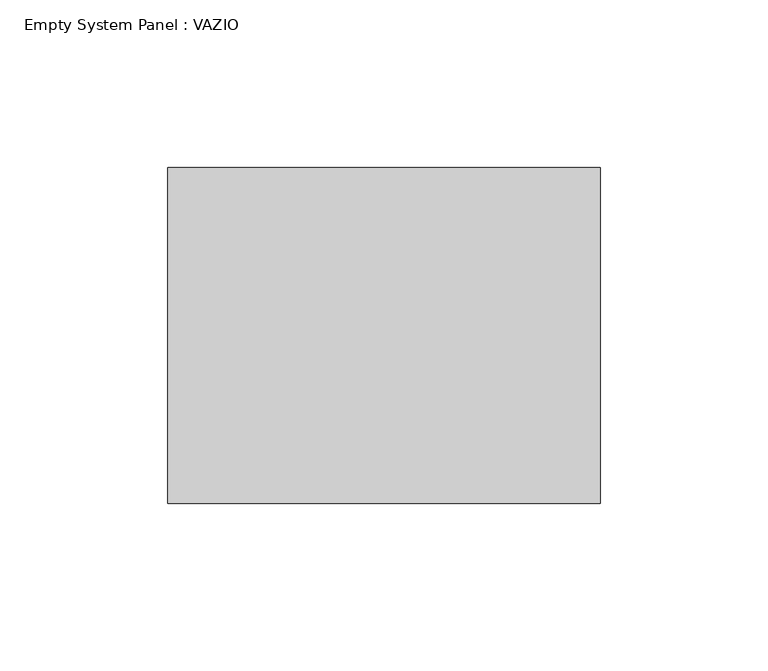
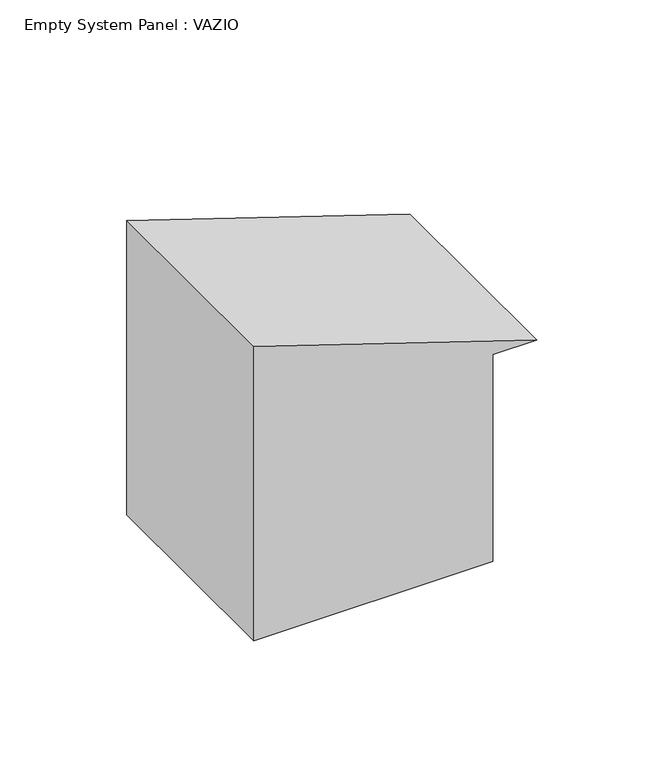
"""IFC4 building model written with IfcOpenShell, lengths in millimetres: plate geometry, Empty System Panel : VAZIO."""

import ifcopenshell
import ifcopenshell.guid

model = None  # the IFC model being written
_history = None  # IfcOwnerHistory: only IFC2X3 demands one
_inside = {}  # id of a spatial element -> (the spatial element, [elements in it])
_under = {}  # id of a project, library or spatial element -> (it, [spatial elements below it])
_declared = {}  # id of a project -> (the project, [libraries it declares])
_typed = {}  # id of a type object -> (the type object, [elements of that type])
_made_of = {}  # id of a material, layer set ... -> (it, [elements and type objects made of it])


def new_model(schema):
    """Start an empty IFC model of exactly this schema.

    Asked for "IFC4X3", IfcOpenShell would pick the latest addendum, in which some entities
    have other attributes; the version numbers below select the first issue.
    IFC2X3 requires an IfcOwnerHistory on every rooted entity: one is made here for all.
    """
    global model, _history
    if schema == "IFC4X3":
        model = ifcopenshell.file(schema_version=(4, 3, 0, 0))
    else:
        model = ifcopenshell.file(schema=schema)
    _inside.clear()
    _under.clear()
    _declared.clear()
    _typed.clear()
    _made_of.clear()
    _history = None
    if model.schema == "IFC2X3":
        org = make("IfcOrganization", Name="unknown")
        user = make(
            "IfcPersonAndOrganization",
            ThePerson=make("IfcPerson", FamilyName="unknown"),
            TheOrganization=org,
        )
        app = make(
            "IfcApplication",
            ApplicationDeveloper=org,
            Version="unknown",
            ApplicationFullName="unknown",
            ApplicationIdentifier="unknown",
        )
        _history = make(
            "IfcOwnerHistory",
            OwningUser=user,
            OwningApplication=app,
            ChangeAction="ADDED",
            CreationDate=0,
        )
    return model


def make(cls, **values):
    """One entity of the class cls with the attributes given. An attribute that is None is left unset."""
    return model.create_entity(
        cls, **{name: value for name, value in values.items() if value is not None}
    )


def rooted(cls, **values):
    """An entity with a GlobalId (a new one), such as an element, a storey or a relation."""
    return make(cls, GlobalId=ifcopenshell.guid.new(), OwnerHistory=_history, **values)


def si_unit(unit_type, name, prefix=None):
    """IfcSIUnit, for example si_unit("LENGTHUNIT", "METRE", prefix="MILLI")."""
    return make("IfcSIUnit", UnitType=unit_type, Prefix=prefix, Name=name)


def assignment(units):
    """IfcUnitAssignment: the units of a project."""
    return None if units is None else make("IfcUnitAssignment", Units=units)


def point(xyz):
    """IfcCartesianPoint."""
    return None if xyz is None else make("IfcCartesianPoint", Coordinates=xyz)


def direction(xyz):
    """IfcDirection."""
    return None if xyz is None else make("IfcDirection", DirectionRatios=xyz)


def frame(location, z_axis=None, x_axis=None):
    """IfcAxis2Placement3D, a coordinate frame: its origin and axes. An axis left out is left unset."""
    return make(
        "IfcAxis2Placement3D",
        Location=point(location),
        Axis=direction(z_axis),
        RefDirection=direction(x_axis),
    )


def frame_2d(location, x_axis=None):
    """IfcAxis2Placement2D, a coordinate frame in the plane: its origin and x axis."""
    return make(
        "IfcAxis2Placement2D", Location=point(location), RefDirection=direction(x_axis)
    )


def origin():
    """The frame at (0, 0, 0) with its axes left unset."""
    return frame((0.0, 0.0, 0.0))


def place(relative_to, where):
    """IfcLocalPlacement: puts the frame where relative to a parent placement (None: the world)."""
    return make(
        "IfcLocalPlacement", PlacementRelTo=relative_to, RelativePlacement=where
    )


def context(
    kind, dimensions, precision=None, world=None, true_north=None, identifier=None
):
    """IfcGeometricRepresentationContext, for example the 3D "Model" context."""
    return make(
        "IfcGeometricRepresentationContext",
        ContextIdentifier=identifier,
        ContextType=kind,
        CoordinateSpaceDimension=dimensions,
        Precision=precision,
        WorldCoordinateSystem=world,
        TrueNorth=true_north,
    )


def project(units=None, contexts=None):
    """IfcProject with its units and contexts."""
    return rooted(
        "IfcProject",
        Name="project",
        RepresentationContexts=contexts,
        UnitsInContext=assignment(units),
    )


def spatial(cls, under=None, at=None, **own):
    """A site, building, storey or space (cls), placed at a placement, below another one or the project."""
    s = rooted(cls, ObjectPlacement=at, **own)
    if under is not None:
        _under.setdefault(under.id(), (under, []))[1].append(s)
    return s


def polyline(points):
    """IfcPolyline through the points."""
    return make("IfcPolyline", Points=[point(p) for p in points])


def circle_curve(where, radius):
    """IfcCircle in the frame where."""
    return make("IfcCircle", Position=where, Radius=radius)


def trimmed(basis, trim1, trim2, sense, master):
    """IfcTrimmedCurve: the piece of a basis curve between two trims."""
    return make(
        "IfcTrimmedCurve",
        BasisCurve=basis,
        Trim1=trim1,
        Trim2=trim2,
        SenseAgreement=sense,
        MasterRepresentation=master,
    )


def segment(curve, same_sense, transition):
    """IfcCompositeCurveSegment."""
    return make(
        "IfcCompositeCurveSegment",
        Transition=transition,
        SameSense=same_sense,
        ParentCurve=curve,
    )


def composite_curve(segments, self_intersect=None):
    """IfcCompositeCurve: segments joined end to end."""
    return make("IfcCompositeCurve", Segments=segments, SelfIntersect=self_intersect)


def outline(outer, holes=None, kind="AREA"):
    """IfcArbitraryClosedProfileDef: a profile drawn as a closed curve; with holes, ...WithVoids."""
    if holes is None:
        return make("IfcArbitraryClosedProfileDef", ProfileType=kind, OuterCurve=outer)
    return make(
        "IfcArbitraryProfileDefWithVoids",
        ProfileType=kind,
        OuterCurve=outer,
        InnerCurves=holes,
    )


def extrude(swept, where, along, depth):
    """IfcExtrudedAreaSolid: the profile swept, set in the frame where, extruded along a direction by depth."""
    return make(
        "IfcExtrudedAreaSolid",
        SweptArea=swept,
        Position=where,
        ExtrudedDirection=direction(along),
        Depth=depth,
    )


def shape(context_of_items, identifier, shape_type, items):
    """IfcShapeRepresentation: the items that make up one representation, for example the "Body"."""
    return make(
        "IfcShapeRepresentation",
        ContextOfItems=context_of_items,
        RepresentationIdentifier=identifier,
        RepresentationType=shape_type,
        Items=items,
    )


def source(mapping_origin, context_of_items, identifier, shape_type, items):
    """IfcRepresentationMap: a shape defined once, which mapped items show again and again."""
    return make(
        "IfcRepresentationMap",
        MappingOrigin=mapping_origin,
        MappedRepresentation=shape(context_of_items, identifier, shape_type, items),
    )


def transform(
    local_origin,
    x_axis=None,
    y_axis=None,
    z_axis=None,
    scale=None,
    scale2=None,
    scale3=None,
    uniform=True,
):
    """IfcCartesianTransformationOperator3D, or its non-uniform kind. x_axis, y_axis, z_axis: its Axis1, 2, 3."""
    if uniform:
        return make(
            "IfcCartesianTransformationOperator3D",
            Axis1=direction(x_axis),
            Axis2=direction(y_axis),
            LocalOrigin=point(local_origin),
            Scale=scale,
            Axis3=direction(z_axis),
        )
    return make(
        "IfcCartesianTransformationOperator3DnonUniform",
        Axis1=direction(x_axis),
        Axis2=direction(y_axis),
        LocalOrigin=point(local_origin),
        Scale=scale,
        Axis3=direction(z_axis),
        Scale2=scale2,
        Scale3=scale3,
    )


def mapped(mapping_source, mapping_target):
    """IfcMappedItem: shows the shape of a source again, moved by a transform."""
    return make(
        "IfcMappedItem", MappingSource=mapping_source, MappingTarget=mapping_target
    )


def made_of(thing, what):
    """Note that an element or type object is made of a material, layer set ...; save() writes the relation."""
    if what is not None:
        _made_of.setdefault(what.id(), (what, []))[1].append(thing)
    return thing


def element(
    cls,
    number,
    at=None,
    inside=None,
    cuts=None,
    type_object=None,
    material=None,
    context=None,
    identifier="Body",
    shape_type=None,
    held_by="IfcProductDefinitionShape",
    body=None,
    shapes=None,
    **own,
):
    """One element of the class cls, such as IfcWall. Its Tag is "e" and its number.

    at: its placement. inside: the storey or other place that contains it. cuts: it is an
    opening in that element (IfcRelVoidsElement). A single representation is given by context,
    identifier, shape_type and body (its items); several are given by shapes. held_by: the class
    of the entity that holds the representations. save() writes the other relations.
    """
    e = rooted(cls, Tag="e%d" % number, ObjectPlacement=at, **own)
    if body is not None:
        shapes = [shape(context, identifier, shape_type, body)]
    if shapes is not None:
        e.Representation = make(held_by, Representations=shapes)
    if inside is not None:
        _inside.setdefault(inside.id(), (inside, []))[1].append(e)
    if cuts is not None:
        rooted(
            "IfcRelVoidsElement", RelatingBuildingElement=cuts, RelatedOpeningElement=e
        )
    if type_object is not None:
        _typed.setdefault(type_object.id(), (type_object, []))[1].append(e)
    return made_of(e, material)


def aggregate(whole, parts):
    """IfcRelAggregates: a whole, such as a stair, and the parts it consists of."""
    return rooted("IfcRelAggregates", RelatingObject=whole, RelatedObjects=parts)


def save(model, path):
    """Write the relations noted so far, then the file.

    IfcRelAggregates (storeys below a building ...), IfcRelContainedInSpatialStructure (elements
    in a storey), IfcRelDefinesByType, IfcRelAssociatesMaterial and IfcRelDeclares: one each for
    every whole, place, type object, material and project.
    """
    for whole, parts in _under.values():
        aggregate(whole, parts)
    for where, things in _inside.values():
        rooted(
            "IfcRelContainedInSpatialStructure",
            RelatedElements=things,
            RelatingStructure=where,
        )
    for kind, things in _typed.values():
        rooted("IfcRelDefinesByType", RelatedObjects=things, RelatingType=kind)
    for what, things in _made_of.values():
        rooted("IfcRelAssociatesMaterial", RelatedObjects=things, RelatingMaterial=what)
    for by, libraries in _declared.values():
        rooted("IfcRelDeclares", RelatingContext=by, RelatedDefinitions=libraries)
    model.write(path)


def empty_system_panel_vazio_7f57b70a(model_context):
    return source(origin(), model_context, "Body", "SweptSolid", [
        extrude(outline(composite_curve([segment(polyline([(0.0, -64.3902439), (0.0, 44.3902439), (99.651178, 44.3902439), (99.651178, 64.3902439)]), True, "CONTINUOUS"), segment(trimmed(circle_curve(frame_2d((-2933.8559746, -997.0731707)), 3213.8559746), [point((99.651178, 64.3902439))], [point((141.6883323, -64.3902439))], False, "CARTESIAN"), True, "CONTINUOUS"), segment(polyline([(141.6883323, -64.3902439), (0.0, -64.3902439)]), True, "CONTINUOUS")], self_intersect=False)), frame((0.0, -50.0, 0.0), z_axis=(0.0, 1.0, 0.0), x_axis=(0.0, 0.0, 1.0)), (0.0, 0.0, 1.0), 100.0),
    ])


if __name__ == "__main__":
    model = new_model("IFC4")
    model_context = context("Model", 3, world=origin())
    ifc_project = project(units=[si_unit("LENGTHUNIT", "METRE", prefix="MILLI")], contexts=[model_context])
    site = spatial("IfcSite", under=ifc_project)
    building = spatial("IfcBuilding", under=site)
    placement = place(None, origin())
    empty_system_panel_vazio_shape = empty_system_panel_vazio_7f57b70a(model_context)
    element("IfcPlate", 1, ObjectType="Empty System Panel : VAZIO", at=placement, inside=building, context=model_context, shape_type="MappedRepresentation", body=[
        mapped(empty_system_panel_vazio_shape, transform((0.0, 0.0, 0.0), x_axis=(1.0, 0.0, 0.0), y_axis=(0.0, 1.0, 0.0), z_axis=(0.0, 0.0, 1.0))),
    ])
    save(model, "model.ifc")
